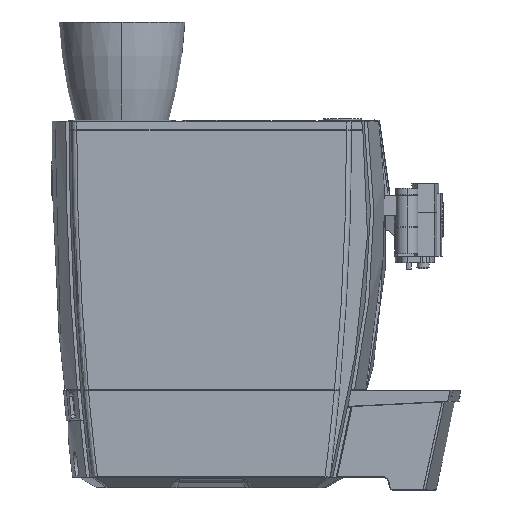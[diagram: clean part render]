
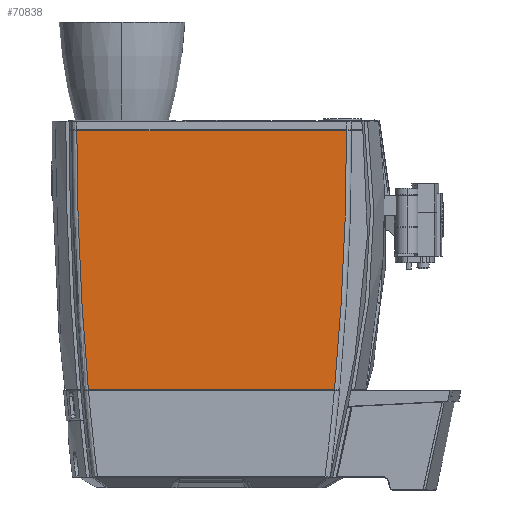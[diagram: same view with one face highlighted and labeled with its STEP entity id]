
A CAD part, left-side view. The second image highlights one B-rep face of the part: STEP entity #70838.
In plain terms, the highlighted planar face has unit normal (-1, 0, 0).
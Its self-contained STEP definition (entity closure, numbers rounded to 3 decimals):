
#3290 = DIRECTION ( 'NONE',  ( 0., -1., 0. ) ) ;
#5164 = VECTOR ( 'NONE', #43398, 1000. ) ;
#6312 = CARTESIAN_POINT ( 'NONE',  ( -240., 49.633, 349. ) ) ;
#6993 = DIRECTION ( 'NONE',  ( 0., -1., 0. ) ) ;
#7326 = VERTEX_POINT ( 'NONE', #11301 ) ;
#7810 = CARTESIAN_POINT ( 'NONE',  ( -240., 3425.161, 349. ) ) ;
#8435 = EDGE_CURVE ( 'NONE', #10027, #55210, #18103, .T. ) ;
#10027 = VERTEX_POINT ( 'NONE', #6312 ) ;
#11301 = CARTESIAN_POINT ( 'NONE',  ( -240., 361.58, 35.5 ) ) ;
#11779 = DIRECTION ( 'NONE',  ( 0., 0., -1. ) ) ;
#14317 = EDGE_CURVE ( 'NONE', #7326, #16421, #43584, .T. ) ;
#15317 = ORIENTED_EDGE ( 'NONE', *, *, #59420, .F. ) ;
#16421 = VERTEX_POINT ( 'NONE', #65117 ) ;
#18103 = CIRCLE ( 'NONE', #23447, 3375.529 ) ;
#23447 = AXIS2_PLACEMENT_3D ( 'NONE', #7810, #39491, #24637 ) ;
#24044 = LINE ( 'NONE', #39209, #50998 ) ;
#24637 = DIRECTION ( 'NONE',  ( 0., 0., -1. ) ) ;
#32153 = CARTESIAN_POINT ( 'NONE',  ( -240., -3146.5, 349. ) ) ;
#35065 = ORIENTED_EDGE ( 'NONE', *, *, #14317, .F. ) ;
#35964 = CARTESIAN_POINT ( 'NONE',  ( -240., -194.595, 1149. ) ) ;
#36065 = AXIS2_PLACEMENT_3D ( 'NONE', #35964, #58375, #3290 ) ;
#37274 = ORIENTED_EDGE ( 'NONE', *, *, #8435, .F. ) ;
#38498 = CARTESIAN_POINT ( 'NONE',  ( -240., -172.298, 35.5 ) ) ;
#39209 = CARTESIAN_POINT ( 'NONE',  ( -240., 381.76, 349. ) ) ;
#39491 = DIRECTION ( 'NONE',  ( 1., 0., 0. ) ) ;
#39710 = ORIENTED_EDGE ( 'NONE', *, *, #51412, .F. ) ;
#40818 = PLANE ( 'NONE',  #36065 ) ;
#43398 = DIRECTION ( 'NONE',  ( 0., 1., 0. ) ) ;
#43584 = CIRCLE ( 'NONE', #64231, 3522.06 ) ;
#45782 = EDGE_LOOP ( 'NONE', ( #39710, #37274, #15317, #35065 ) ) ;
#50998 = VECTOR ( 'NONE', #6993, 1000. ) ;
#51412 = EDGE_CURVE ( 'NONE', #55210, #7326, #69092, .T. ) ;
#55210 = VERTEX_POINT ( 'NONE', #67211 ) ;
#58375 = DIRECTION ( 'NONE',  ( 1., 0., 0. ) ) ;
#59420 = EDGE_CURVE ( 'NONE', #16421, #10027, #24044, .T. ) ;
#62249 = DIRECTION ( 'NONE',  ( 1., 0., 0. ) ) ;
#64231 = AXIS2_PLACEMENT_3D ( 'NONE', #32153, #62249, #11779 ) ;
#65117 = CARTESIAN_POINT ( 'NONE',  ( -240., 375.56, 349. ) ) ;
#67211 = CARTESIAN_POINT ( 'NONE',  ( -240., 64.222, 35.5 ) ) ;
#69092 = LINE ( 'NONE', #38498, #5164 ) ;
#70838 = ADVANCED_FACE ( 'NONE', ( #72547 ), #40818, .F. ) ;
#72547 = FACE_OUTER_BOUND ( 'NONE', #45782, .T. ) ;
